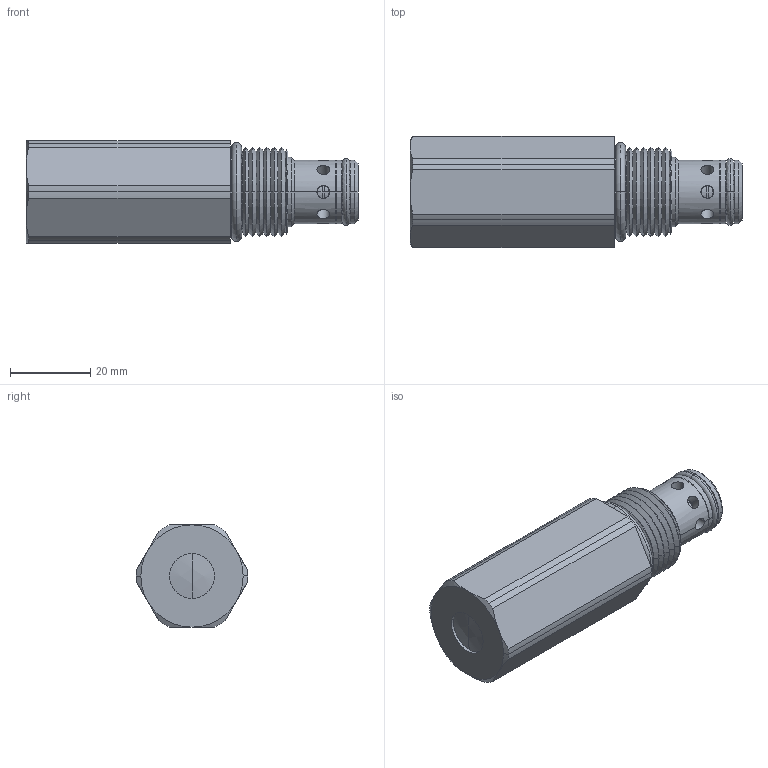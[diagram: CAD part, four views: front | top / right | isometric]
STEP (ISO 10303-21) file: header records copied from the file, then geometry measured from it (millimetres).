
FILE_DESCRIPTION((''),'2;1');
FILE_NAME('U:\Solid model CD\Solid model full\Mechanical\STEP\DEPSD0T-3D Full.stp','2008-07-28T16:13:31',('Dan'),(''),'Autodesk Inventor 9','Autodesk Inventor 9','');
FILE_SCHEMA(('AUTOMOTIVE_DESIGN { 1 0 10303 214 1 1 1 1 }'));
Length unit declared in the file: inch
Products named in the file (5): DEPSD0T-3D Full; DEPSD0T-3D Full1; DEPSD0T-3D Full2; DEPSD0T-3D Full3; DEPSD0T-3D Full4
Assembly tree (4 placements, depth 2):
  DEPSD0T-3D Full
    DEPSD0T-3D Full1
    DEPSD0T-3D Full2
    DEPSD0T-3D Full3
    DEPSD0T-3D Full4
Bounding box: 82.5 x 27.69 x 25.4 mm (x, y, z)
Volume: 36108 mm3; surface area: 9468 mm2
Topology: 4 solids, 5 shells, 147 faces, 349 edges, 219 vertices
Faces by surface type: cylinder 60, cone 42, plane 23, bspline 16, torus 4, sphere 2
Entity records: 5282 total; most frequent: CARTESIAN_POINT 1750, DIRECTION 742, ORIENTED_EDGE 698, EDGE_CURVE 349, AXIS2_PLACEMENT_3D 313, VERTEX_POINT 219, EDGE_LOOP 176, CIRCLE 173
